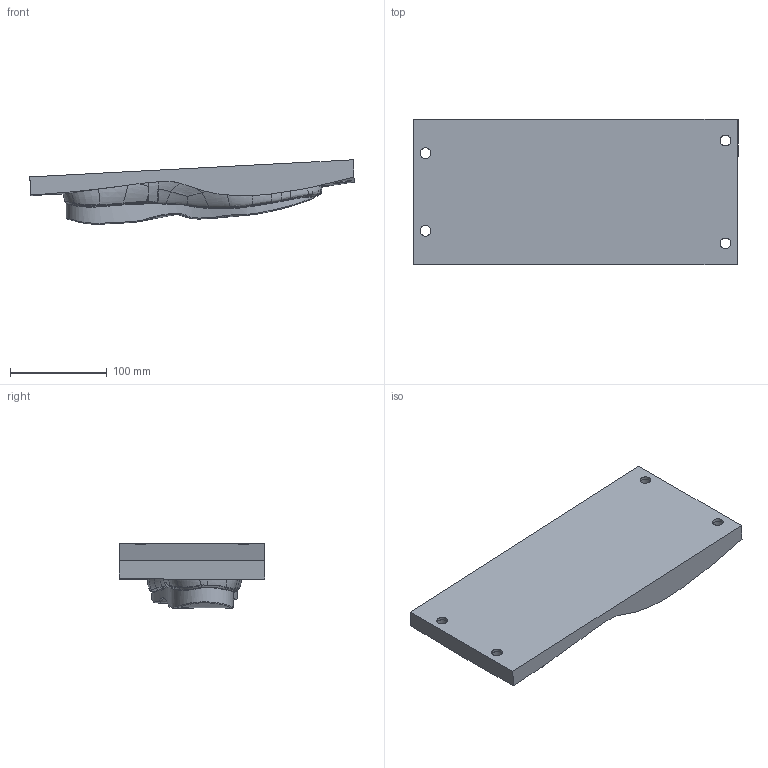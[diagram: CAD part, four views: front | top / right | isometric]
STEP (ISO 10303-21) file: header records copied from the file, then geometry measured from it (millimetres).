
FILE_DESCRIPTION(/* description */ ('Unknown'),/* implementation_level */ '2;1');
FILE_NAME(/* name */ 'Tvarnik',/* time_stamp */ '2025-05-07T13:08:42+02:00',/* author */ ('Unknown'),/* organization */ ('Unknown'),/* preprocessor_version */ 'ST-DEVELOPER v19.4',/* originating_system */ 'Solid Edge',/* authorisation */ 'Unknown');
FILE_SCHEMA (('CONFIG_CONTROL_DESIGN'));
Length unit declared in the file: millimetre
Products named in the file (1): Lisovací_forma_pro_podešev
Bounding box: 334.73 x 150 x 66.48 mm (x, y, z)
Volume: 1518315.1 mm3; surface area: 140208 mm2
Topology: 1 solids, 1 shells, 229 faces, 585 edges, 359 vertices
Faces by surface type: bspline 200, plane 13, cylinder 12, torus 4
Full cylindrical faces by diameter (mm): 11 x4, 16 x4, 17 x4
Entity records: 22486 total; most frequent: CARTESIAN_POINT 18703, ORIENTED_EDGE 1086, EDGE_CURVE 543, B_SPLINE_CURVE_WITH_KNOTS 449, VERTEX_POINT 347, EDGE_LOOP 268, FACE_BOUND 268, ADVANCED_FACE 229
